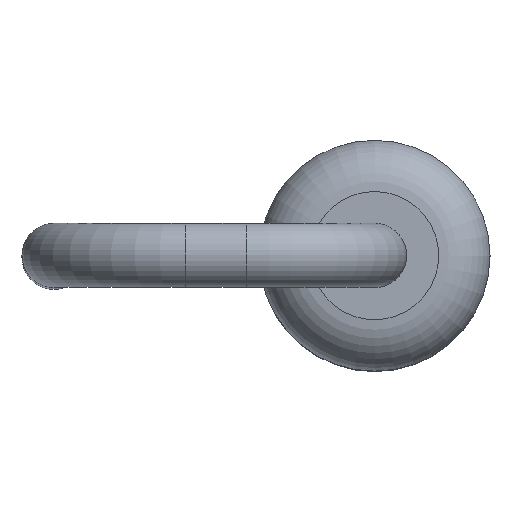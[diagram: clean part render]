
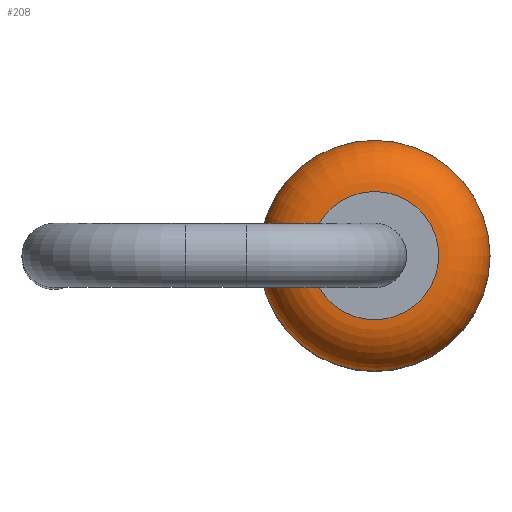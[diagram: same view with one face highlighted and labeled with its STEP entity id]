
A CAD part, top view. The second image highlights one B-rep face of the part: STEP entity #208.
In plain terms, the highlighted toroidal (fillet/blend) face has major radius 0.5 mm and minor radius 0.4 mm.
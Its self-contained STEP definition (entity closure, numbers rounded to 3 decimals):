
#208=ADVANCED_FACE('',(#377,#379),#381,.T.);
#377=FACE_OUTER_BOUND('',#378,.T.);
#378=EDGE_LOOP('',(#468));
#379=FACE_OUTER_BOUND('',#380,.T.);
#380=EDGE_LOOP('',(#469));
#381=TOROIDAL_SURFACE('',#382,0.5,0.4);
#382=AXIS2_PLACEMENT_3D('',#383,#384,#385);
#383=CARTESIAN_POINT('',(0.,0.,1.25));
#384=DIRECTION('',(0.,0.,1.));
#385=DIRECTION('',(1.,0.,0.));
#468=ORIENTED_EDGE('',*,*,#493,.T.);
#469=ORIENTED_EDGE('',*,*,#494,.F.);
#493=EDGE_CURVE('',#521,#521,#522,.T.);
#494=EDGE_CURVE('',#523,#523,#524,.T.);
#521=VERTEX_POINT('',#587);
#522=CIRCLE('',#588,0.9);
#523=VERTEX_POINT('',#592);
#524=CIRCLE('',#593,0.5);
#587=CARTESIAN_POINT('',(0.9,0.,1.25));
#588=AXIS2_PLACEMENT_3D('',#589,#590,#591);
#589=CARTESIAN_POINT('',(0.,0.,1.25));
#590=DIRECTION('',(0.,0.,1.));
#591=DIRECTION('',(1.,0.,0.));
#592=CARTESIAN_POINT('',(0.5,0.,1.65));
#593=AXIS2_PLACEMENT_3D('',#594,#595,#596);
#594=CARTESIAN_POINT('',(0.,0.,1.65));
#595=DIRECTION('',(0.,0.,1.));
#596=DIRECTION('',(1.,0.,0.));
